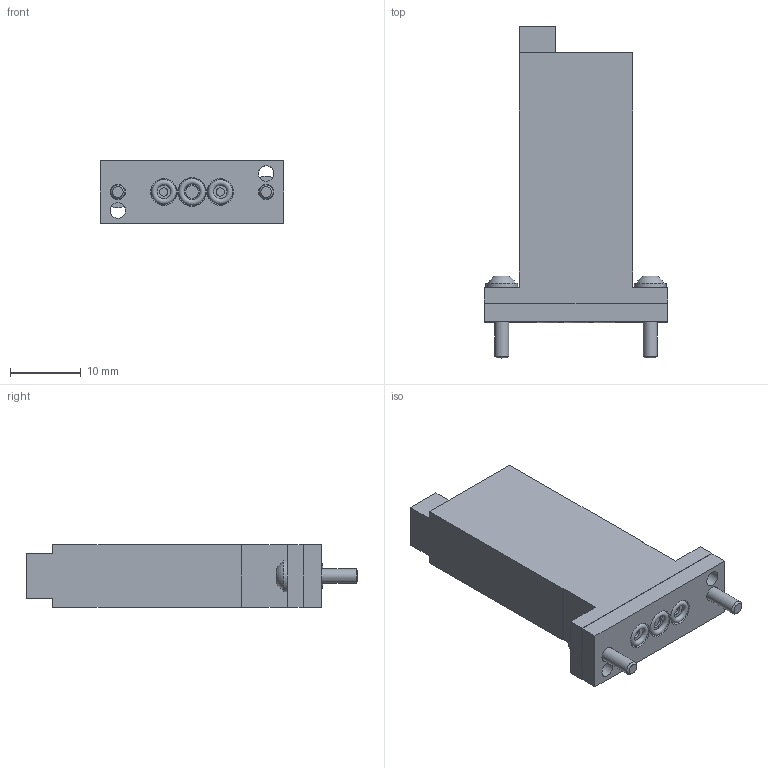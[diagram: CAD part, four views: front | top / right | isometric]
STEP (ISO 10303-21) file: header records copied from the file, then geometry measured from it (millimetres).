
FILE_DESCRIPTION(/* description */ ('STEP AP214'),/* implementation_level */ '2;1');
FILE_NAME(/* name */ '6724-20027694-Bevorzugt-PEEK-medium-2_2-_und_3_2-Wege_Wippen-Ma_106547dbf191860f',/* time_stamp */ '2024-08-16T14:07:21+02:00',/* author */ ('License CC BY-ND 4.0'),/* organization */ ('CADENAS'),/* preprocessor_version */ 'ST-DEVELOPER v19.3',/* originating_system */ 'PARTsolutions',/* authorisation */ ' ');
FILE_SCHEMA (('AUTOMOTIVE_DESIGN {1 0 10303 214 3 1 1}'));
Length unit declared in the file: millimetre
Products named in the file (1): 6724-20027694-Bevorzugt-PEEK-medium-2/2- und 3/2-Wege Wippen-Magnetve
ntil mit Medientrennung
Bounding box: 26 x 47 x 8.9 mm (x, y, z)
Volume: 5943.2 mm3; surface area: 2987.8 mm2
Topology: 1 solids, 1 shells, 85 faces, 194 edges, 129 vertices
Faces by surface type: plane 64, cylinder 14, torus 5, cone 2
Full cylindrical faces by diameter (mm): 1.2 x2, 1.8 x1, 2 x2, 2.2 x4, 3.75 x2, 4.05 x1, 4.5 x2
Entity records: 2791 total; most frequent: DIRECTION 376, CARTESIAN_POINT 362, ORIENTED_EDGE 320, EDGE_CURVE 160, AXIS2_PLACEMENT_3D 130, EDGE_LOOP 128, FACE_BOUND 128, LINE 116
